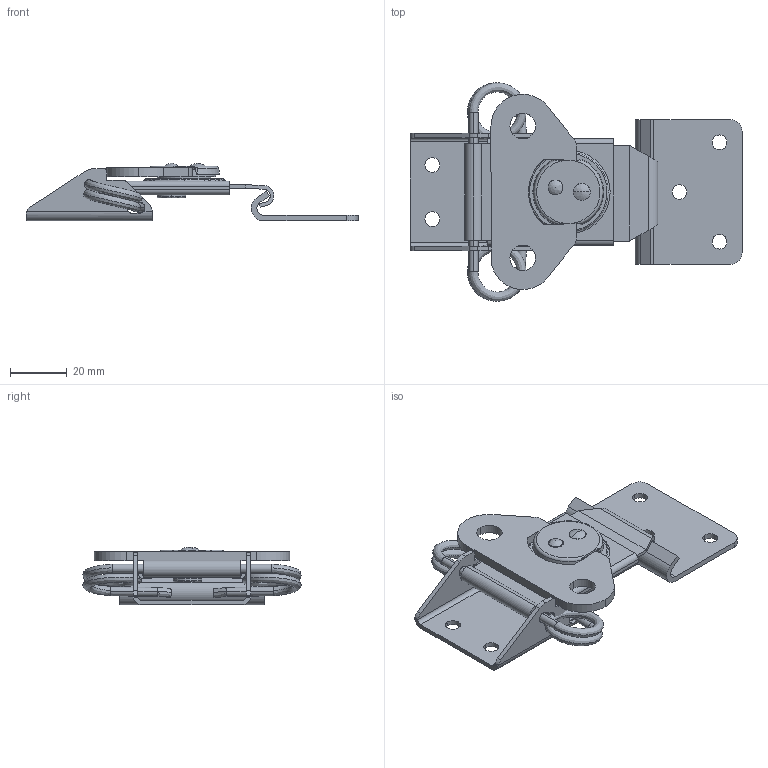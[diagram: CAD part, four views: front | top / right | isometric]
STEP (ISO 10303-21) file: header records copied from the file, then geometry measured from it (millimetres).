
FILE_DESCRIPTION((''),'2;1');
FILE_NAME('100.L0925.stp','2016-07-28T08:59:03',(''),(''),'Mechanical Desktop 2006','Mechanical Desktop 2006',', , ');
FILE_SCHEMA(('AUTOMOTIVE_DESIGN { 1 2 10303 214 0 1 1 1 }'));
Length unit declared in the file: millimetre
Products named in the file (23): 100.L0925; ASSEM1(1); BAU1; SW3DPS-K5-2856-07_K5_UPPER_CAM_2_10_LINK_LOCK_CLFCLF6(1); BAU2; SW3DPS-K5-2856-07_K5_SPRING_CAP_2_LINK_LOCK_CLF6(1); BAU3; SW3DPS-K5-2856-07_K5_HOUSING_FLAT_CAM_CLF1(1); BAU4; SW3DPS-K5-2856-07_K5_RIGHT_HAND_SPRING_CLF3(1); BAU5; SW3DPS-K5-2856-07_K5_CAM_RIVET_CLF6(1); BAU6; SW3DPS-K5-2856-07_K5_SLIDE_CLF1(1); BAU7; SW3DPS-K5-2856-07_K5_LEFT_HAND_SPRING_2_CLF3(1); BAU8; SW3DPS-K5-2856-07_K5_WING_CLF8(1); BAU9; SW3DPS-K5-2856-07_K5_LOWER_CAM_2_10_LINK_LOCK_CLF6(1); BAU10; SW3DPS-K5-2811-52_K5-2811-07; SW3DPS-K5-2856-07_K5_ANCHOR_PLATE_CLF4(1)
Assembly tree (22 placements, depth 4):
  100.L0925
    ASSEM1(1)
      BAU1
        SW3DPS-K5-2856-07_K5_UPPER_CAM_2_10_LINK_LOCK_CLFCLF6(1)
      BAU2
        SW3DPS-K5-2856-07_K5_SPRING_CAP_2_LINK_LOCK_CLF6(1)
      BAU3
        SW3DPS-K5-2856-07_K5_HOUSING_FLAT_CAM_CLF1(1)
      BAU4
        SW3DPS-K5-2856-07_K5_RIGHT_HAND_SPRING_CLF3(1)
      BAU5
        SW3DPS-K5-2856-07_K5_CAM_RIVET_CLF6(1)
      BAU6
        SW3DPS-K5-2856-07_K5_SLIDE_CLF1(1)
      BAU7
        SW3DPS-K5-2856-07_K5_LEFT_HAND_SPRING_2_CLF3(1)
      BAU8
        SW3DPS-K5-2856-07_K5_WING_CLF8(1)
      BAU9
        SW3DPS-K5-2856-07_K5_LOWER_CAM_2_10_LINK_LOCK_CLF6(1)
      BAU10
    SW3DPS-K5-2811-52_K5-2811-07
    SW3DPS-K5-2856-07_K5_ANCHOR_PLATE_CLF4(1)
Bounding box: 116.75 x 76.75 x 20.22 mm (x, y, z)
Volume: 22826.8 mm3; surface area: 29755.2 mm2
Topology: 11 solids, 11 shells, 318 faces, 848 edges, 554 vertices
Faces by surface type: cylinder 143, plane 122, torus 20, bspline 17, cone 12, sphere 4
Entity records: 13190 total; most frequent: CARTESIAN_POINT 4194, DIRECTION 1777, ORIENTED_EDGE 1674, EDGE_CURVE 837, AXIS2_PLACEMENT_3D 679, VERTEX_POINT 550, VECTOR 419, LINE 419
